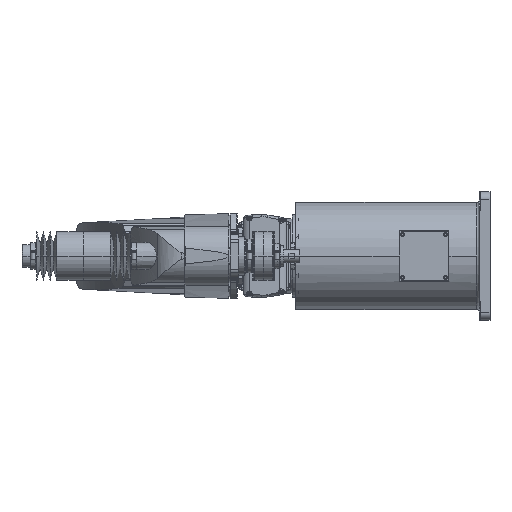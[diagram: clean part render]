
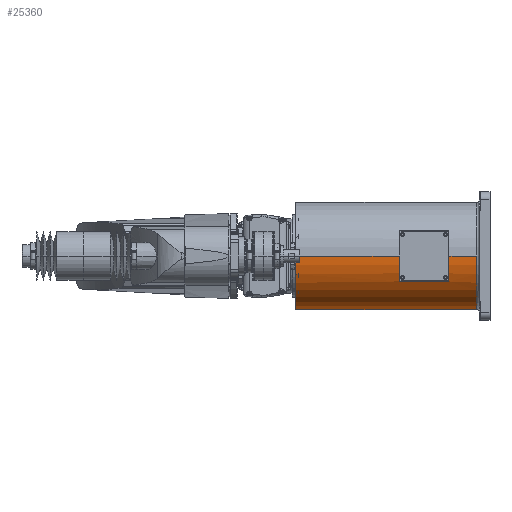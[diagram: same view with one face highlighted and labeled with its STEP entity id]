
A CAD part, left-side view. The second image highlights one B-rep face of the part: STEP entity #25360.
In plain terms, the highlighted cylindrical face has radius 100 mm (diameter 200 mm), a partial arc.
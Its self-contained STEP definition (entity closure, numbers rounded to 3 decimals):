
#11028 = VERTEX_POINT( '', #31791 );
#11090 = VERTEX_POINT( '', #31857 );
#11430 = EDGE_CURVE( '', #26474, #27244, #32239, .T. );
#12500 = EDGE_CURVE( '', #30072, #14232, #33423, .T. );
#12538 = EDGE_CURVE( '', #11090, #21328, #33463, .T. );
#13516 = EDGE_CURVE( '', #30608, #24672, #34570, .T. );
#13642 = VERTEX_POINT( '', #34708 );
#13750 = VERTEX_POINT( '', #34824 );
#14232 = VERTEX_POINT( '', #35355 );
#15510 = EDGE_CURVE( '', #18594, #21328, #36786, .T. );
#16856 = VERTEX_POINT( '', #38293 );
#17292 = EDGE_CURVE( '', #11028, #16856, #38775, .T. );
#17970 = VERTEX_POINT( '', #39540 );
#18594 = VERTEX_POINT( '', #40223 );
#18674 = EDGE_CURVE( '', #13750, #30616, #40305, .T. );
#19368 = EDGE_CURVE( '', #14232, #18594, #41080, .T. );
#19458 = EDGE_CURVE( '', #16856, #29850, #41180, .T. );
#21328 = VERTEX_POINT( '', #43243 );
#21560 = EDGE_CURVE( '', #30608, #17970, #43503, .T. );
#22924 = EDGE_CURVE( '', #17970, #11090, #45064, .T. );
#23960 = EDGE_CURVE( '', #30616, #24672, #46231, .T. );
#24672 = VERTEX_POINT( '', #47023 );
#25360 = ADVANCED_FACE( '', ( #47783 ), #47784, .T. );
#25478 = EDGE_CURVE( '', #30072, #13642, #47913, .T. );
#25542 = EDGE_CURVE( '', #13642, #11028, #47978, .T. );
#26474 = VERTEX_POINT( '', #49000 );
#27244 = VERTEX_POINT( '', #49859 );
#27650 = EDGE_CURVE( '', #27244, #13750, #50305, .T. );
#29850 = VERTEX_POINT( '', #52774 );
#29948 = EDGE_CURVE( '', #29850, #26474, #52878, .T. );
#30072 = VERTEX_POINT( '', #53013 );
#30608 = VERTEX_POINT( '', #53612 );
#30616 = VERTEX_POINT( '', #53620 );
#31791 = CARTESIAN_POINT( '', ( 89.303, 326., -45. ) );
#31857 = CARTESIAN_POINT( '', ( -88., 169.7, -47.497 ) );
#32239 = B_SPLINE_CURVE_WITH_KNOTS( '', 3, ( #55807, #55808, #55809, #55810, #55811, #55812, #55813, #55814, #55815, #55816, #55817, #55818, #55819, #55820, #55821, #55822, #55823, #55824 ), .UNSPECIFIED., .F., .F., ( 4, 2, 2, 2, 2, 2, 2, 2, 4 ), ( -7.48, -6.36, -5.24, -4.12, -3., -2.25, -1.5, -0.75, 0. ), .UNSPECIFIED. );
#33423 = LINE( '', #57702, #57703 );
#33463 = CIRCLE( '', #57754, 100. );
#34570 = LINE( '', #59290, #59291 );
#34708 = CARTESIAN_POINT( '', ( 89.303, 324., -45. ) );
#34824 = CARTESIAN_POINT( '', ( 66.144, 25., -75. ) );
#35355 = CARTESIAN_POINT( '', ( 100., 363., 0. ) );
#36786 = LINE( '', #62454, #62455 );
#38293 = CARTESIAN_POINT( '', ( 75.993, 326., -65. ) );
#38775 = CIRCLE( '', #65432, 100. );
#39540 = CARTESIAN_POINT( '', ( -88., 76.7, -47.497 ) );
#40223 = CARTESIAN_POINT( '', ( -100., 363., 0. ) );
#40305 = CIRCLE( '', #67697, 100. );
#41080 = CIRCLE( '', #68890, 100. );
#41180 = LINE( '', #69041, #69042 );
#43243 = CARTESIAN_POINT( '', ( -100., 169.7, 0. ) );
#43503 = CIRCLE( '', #72422, 100. );
#45064 = LINE( '', #74646, #74647 );
#46231 = CIRCLE( '', #76330, 100. );
#47023 = CARTESIAN_POINT( '', ( -100., 25., 0. ) );
#47783 = FACE_OUTER_BOUND( '', #78614, .T. );
#47784 = CYLINDRICAL_SURFACE( '', #78615, 100. );
#47913 = CIRCLE( '', #78800, 100. );
#47978 = LINE( '', #78893, #78894 );
#49000 = CARTESIAN_POINT( '', ( 70.42, 324., -71. ) );
#49859 = CARTESIAN_POINT( '', ( 66.144, 320., -75. ) );
#50305 = LINE( '', #82323, #82324 );
#52774 = CARTESIAN_POINT( '', ( 75.993, 324., -65. ) );
#52878 = CIRCLE( '', #86165, 100. );
#53013 = CARTESIAN_POINT( '', ( 100., 324., 0. ) );
#53612 = CARTESIAN_POINT( '', ( -100., 76.7, 0. ) );
#53620 = CARTESIAN_POINT( '', ( 0., 25., -100. ) );
#55807 = CARTESIAN_POINT( '', ( 70.42, 324., -71. ) );
#55808 = CARTESIAN_POINT( '', ( 70.155, 324., -71.263 ) );
#55809 = CARTESIAN_POINT( '', ( 69.877, 323.974, -71.535 ) );
#55810 = CARTESIAN_POINT( '', ( 69.316, 323.861, -72.08 ) );
#55811 = CARTESIAN_POINT( '', ( 69.031, 323.776, -72.352 ) );
#55812 = CARTESIAN_POINT( '', ( 68.475, 323.543, -72.879 ) );
#55813 = CARTESIAN_POINT( '', ( 68.203, 323.396, -73.134 ) );
#55814 = CARTESIAN_POINT( '', ( 67.688, 323.046, -73.61 ) );
#55815 = CARTESIAN_POINT( '', ( 67.446, 322.842, -73.831 ) );
#55816 = CARTESIAN_POINT( '', ( 67.082, 322.458, -74.162 ) );
#55817 = CARTESIAN_POINT( '', ( 66.938, 322.284, -74.292 ) );
#55818 = CARTESIAN_POINT( '', ( 66.674, 321.897, -74.529 ) );
#55819 = CARTESIAN_POINT( '', ( 66.555, 321.685, -74.636 ) );
#55820 = CARTESIAN_POINT( '', ( 66.356, 321.234, -74.812 ) );
#55821 = CARTESIAN_POINT( '', ( 66.277, 320.995, -74.882 ) );
#55822 = CARTESIAN_POINT( '', ( 66.171, 320.503, -74.976 ) );
#55823 = CARTESIAN_POINT( '', ( 66.144, 320.25, -75. ) );
#55824 = CARTESIAN_POINT( '', ( 66.144, 320., -75. ) );
#57702 = CARTESIAN_POINT( '', ( 100., 194., 0. ) );
#57703 = VECTOR( '', #90662, 1. );
#57754 = AXIS2_PLACEMENT_3D( '', #90690, #90691, #90692 );
#59290 = CARTESIAN_POINT( '', ( -100., 194., 0. ) );
#59291 = VECTOR( '', #92035, 1. );
#62454 = CARTESIAN_POINT( '', ( -100., 194., 0. ) );
#62455 = VECTOR( '', #94576, 1. );
#65432 = AXIS2_PLACEMENT_3D( '', #96905, #96906, #96907 );
#67697 = AXIS2_PLACEMENT_3D( '', #98589, #98590, #98591 );
#68890 = AXIS2_PLACEMENT_3D( '', #99498, #99499, #99500 );
#69041 = CARTESIAN_POINT( '', ( 75.993, 325., -65. ) );
#69042 = VECTOR( '', #99613, 1. );
#72422 = AXIS2_PLACEMENT_3D( '', #102220, #102221, #102222 );
#74646 = CARTESIAN_POINT( '', ( -88., 123.2, -47.497 ) );
#74647 = VECTOR( '', #104192, 1. );
#76330 = AXIS2_PLACEMENT_3D( '', #105643, #105644, #105645 );
#78614 = EDGE_LOOP( '', ( #107383, #107384, #107385, #107386, #107387, #107388, #107389, #107390, #107391, #107392, #107393, #107394, #107395, #107396, #107397, #107398 ) );
#78615 = AXIS2_PLACEMENT_3D( '', #107399, #107400, #107401 );
#78800 = AXIS2_PLACEMENT_3D( '', #107553, #107554, #107555 );
#78893 = CARTESIAN_POINT( '', ( 89.303, 325., -45. ) );
#78894 = VECTOR( '', #107585, 1. );
#82323 = CARTESIAN_POINT( '', ( 66.144, 172.5, -75. ) );
#82324 = VECTOR( '', #110119, 1. );
#86165 = AXIS2_PLACEMENT_3D( '', #113107, #113108, #113109 );
#90662 = DIRECTION( '', ( 0., 1., 0. ) );
#90690 = CARTESIAN_POINT( '', ( 0., 169.7, 0. ) );
#90691 = DIRECTION( '', ( 0., 1., 0. ) );
#90692 = DIRECTION( '', ( 1., 0., 0. ) );
#92035 = DIRECTION( '', ( 0., -1., 0. ) );
#94576 = DIRECTION( '', ( 0., -1., 0. ) );
#96905 = CARTESIAN_POINT( '', ( 0., 326., 0. ) );
#96906 = DIRECTION( '', ( 0., 1., 0. ) );
#96907 = DIRECTION( '', ( 1., 0., 0. ) );
#98589 = CARTESIAN_POINT( '', ( 0., 25., 0. ) );
#98590 = DIRECTION( '', ( 0., 1., 0. ) );
#98591 = DIRECTION( '', ( 1., 0., 0. ) );
#99498 = CARTESIAN_POINT( '', ( 0., 363., 0. ) );
#99499 = DIRECTION( '', ( 0., 1., 0. ) );
#99500 = DIRECTION( '', ( 1., 0., 0. ) );
#99613 = DIRECTION( '', ( 0., -1., 0. ) );
#102220 = CARTESIAN_POINT( '', ( 0., 76.7, 0. ) );
#102221 = DIRECTION( '', ( 0., -1., 0. ) );
#102222 = DIRECTION( '', ( 1., 0., 0. ) );
#104192 = DIRECTION( '', ( 0., 1., 0. ) );
#105643 = CARTESIAN_POINT( '', ( 0., 25., 0. ) );
#105644 = DIRECTION( '', ( 0., 1., 0. ) );
#105645 = DIRECTION( '', ( 1., 0., 0. ) );
#107383 = ORIENTED_EDGE( '', *, *, #12500, .F. );
#107384 = ORIENTED_EDGE( '', *, *, #25478, .T. );
#107385 = ORIENTED_EDGE( '', *, *, #25542, .T. );
#107386 = ORIENTED_EDGE( '', *, *, #17292, .T. );
#107387 = ORIENTED_EDGE( '', *, *, #19458, .T. );
#107388 = ORIENTED_EDGE( '', *, *, #29948, .T. );
#107389 = ORIENTED_EDGE( '', *, *, #11430, .T. );
#107390 = ORIENTED_EDGE( '', *, *, #27650, .T. );
#107391 = ORIENTED_EDGE( '', *, *, #18674, .T. );
#107392 = ORIENTED_EDGE( '', *, *, #23960, .T. );
#107393 = ORIENTED_EDGE( '', *, *, #13516, .F. );
#107394 = ORIENTED_EDGE( '', *, *, #21560, .T. );
#107395 = ORIENTED_EDGE( '', *, *, #22924, .T. );
#107396 = ORIENTED_EDGE( '', *, *, #12538, .T. );
#107397 = ORIENTED_EDGE( '', *, *, #15510, .F. );
#107398 = ORIENTED_EDGE( '', *, *, #19368, .F. );
#107399 = CARTESIAN_POINT( '', ( 0., 194., 0. ) );
#107400 = DIRECTION( '', ( 0., -1., 0. ) );
#107401 = DIRECTION( '', ( 1., 0., 0. ) );
#107553 = CARTESIAN_POINT( '', ( 0., 324., 0. ) );
#107554 = DIRECTION( '', ( 0., 1., 0. ) );
#107555 = DIRECTION( '', ( 1., 0., 0. ) );
#107585 = DIRECTION( '', ( 0., 1., 0. ) );
#110119 = DIRECTION( '', ( 0., -1., 0. ) );
#113107 = CARTESIAN_POINT( '', ( 0., 324., 0. ) );
#113108 = DIRECTION( '', ( 0., 1., 0. ) );
#113109 = DIRECTION( '', ( 1., 0., 0. ) );
